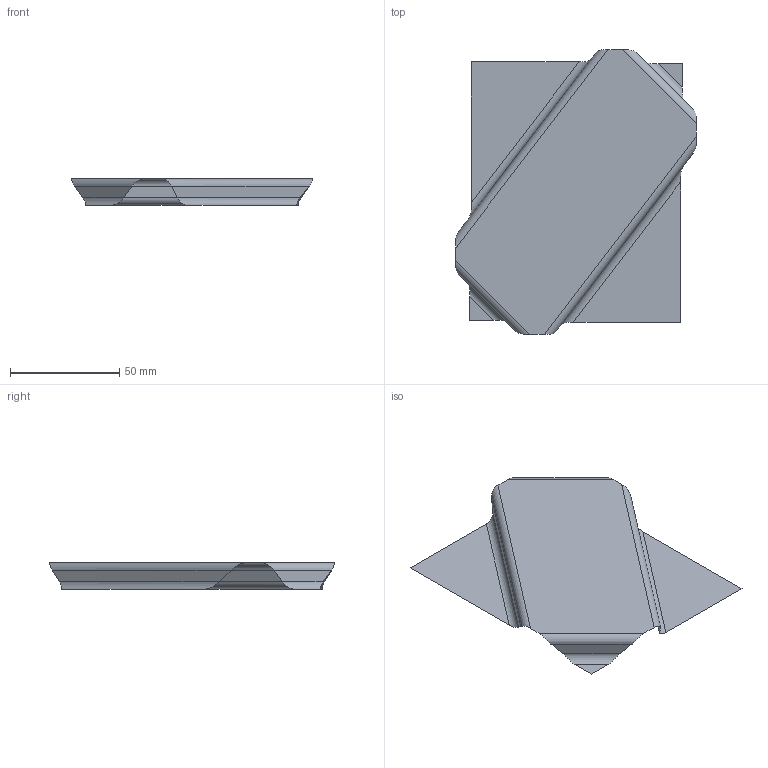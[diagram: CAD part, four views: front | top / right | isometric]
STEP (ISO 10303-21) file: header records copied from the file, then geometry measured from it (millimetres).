
FILE_DESCRIPTION(('CATIA V5 STEP Exchange'),'2;1');
FILE_NAME('C:\_Andres\UNIVERSIDAD\IQS\ASIGNATURAS\DAO\EXF\EXF-15161c\1original\Purroy_Trillo_Ej03-chapa_v20.stp','2016-03-04T16:56:06+00:00',('none'),('none'),'CATIA Version 5 Release 20 SP 1 (IN-10)','CATIA V5 STEP AP203','none');
FILE_SCHEMA(('CONFIG_CONTROL_DESIGN'));
Length unit declared in the file: millimetre
Products named in the file (1): Purroy_Trillo_Ej03-chapa_v20
Bounding box: 110.01 x 130.01 x 12.29 mm (x, y, z)
Surface area: 14345 mm2 (no closed solid volume)
Topology: 0 solids, 1 shells, 17 faces, 52 edges, 36 vertices
Faces by surface type: plane 9, cylinder 8
Entity records: 622 total; most frequent: CARTESIAN_POINT 203, ORIENTED_EDGE 68, DIRECTION 56, EDGE_CURVE 52, VERTEX_POINT 36, B_SPLINE_CURVE_WITH_KNOTS 32, VECTOR 20, LINE 20
